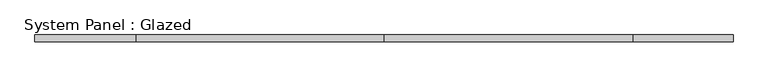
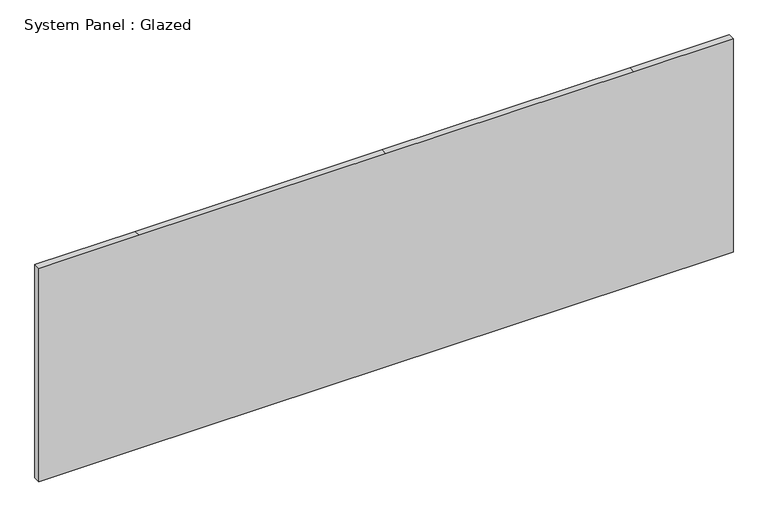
"""IFC4 building model written with IfcOpenShell, lengths in millimetres: plate geometry, System Panel : Glazed."""

from ifc_helpers import new_model, si_unit, frame, origin, place, context, project, spatial, polyline, outline, extrude, source, transform, mapped, element, save


def system_panel_glazed_2150bdaf(model_context):
    return source(origin(), model_context, "Body", "SweptSolid", [
        extrude(outline(polyline([(0.0, -1328.0571429), (0.0, -943.4285714), (0.0, 0.0), (0.0, 948.8714286), (0.0, 1328.0571429), (863.6, 1328.0571429), (863.6, 948.8714286), (863.6, 0.0), (863.6, -943.4285714), (863.6, -1328.0571429), (0.0, -1328.0571429)])), frame((0.0, 19.05, 0.0), z_axis=(0.0, 1.0, 0.0), x_axis=(0.0, 0.0, 1.0)), (0.0, 0.0, 1.0), 25.4),
    ])


if __name__ == "__main__":
    model = new_model("IFC4")
    model_context = context("Model", 3, world=origin())
    ifc_project = project(units=[si_unit("LENGTHUNIT", "METRE", prefix="MILLI")], contexts=[model_context])
    site = spatial("IfcSite", under=ifc_project)
    building = spatial("IfcBuilding", under=site)
    placement = place(None, origin())
    system_panel_glazed_shape = system_panel_glazed_2150bdaf(model_context)
    element("IfcPlate", 1, ObjectType="System Panel : Glazed", at=placement, inside=building, context=model_context, shape_type="MappedRepresentation", body=[
        mapped(system_panel_glazed_shape, transform((0.0, 0.0, 0.0), x_axis=(1.0, 0.0, 0.0), y_axis=(0.0, 1.0, 0.0), z_axis=(0.0, 0.0, 1.0))),
    ])
    save(model, "model.ifc")
